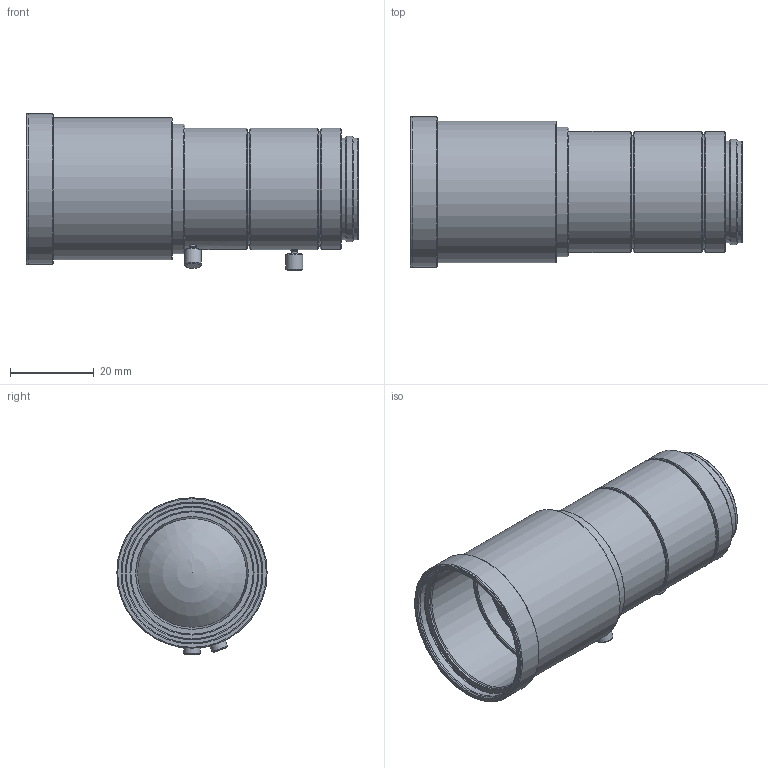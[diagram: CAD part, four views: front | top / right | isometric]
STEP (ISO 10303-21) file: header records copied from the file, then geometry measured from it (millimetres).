
FILE_DESCRIPTION(/* description */ ('Unknown'),/* implementation_level */ '2;1');
FILE_NAME(/* name */ 'M7528-MPW3_HP_251009_',/* time_stamp */ '2025-10-10T13:28:02+09:00',/* author */ ('Unknown'),/* organization */ ('Unknown'),/* preprocessor_version */ 'ST-DEVELOPER v18.102',/* originating_system */ 'Solid Edge',/* authorisation */ 'Unknown');
FILE_SCHEMA (('AUTOMOTIVE_DESIGN {1 0 10303 214 3 1 1}'));
Length unit declared in the file: millimetre
Products named in the file (3): M7528-MPW3_HP_251009_; M7528-MPW3_Infinity_251009_; M7528-MPW3_Mechanical Limit_251009_
Assembly tree (2 placements, depth 2):
  M7528-MPW3_HP_251009_
    M7528-MPW3_Infinity_251009_
    M7528-MPW3_Mechanical Limit_251009_
Bounding box: 79.5 x 36 x 37.44 mm (x, y, z)
Volume: 88967.2 mm3; surface area: 25515.6 mm2
Topology: 2 solids, 2 shells, 153 faces, 275 edges, 166 vertices
Faces by surface type: cone 56, cylinder 47, plane 46, sphere 4
Full cylindrical faces by diameter (mm): 1.3 x4, 1.7 x4, 4 x4, 15.6 x2, 20 x2, 24.4 x4, 25.3 x2, 27 x2, 27.5 x2, 29 x6, 29.3 x2, 31 x2, 31.5 x2, 32 x1, 33.5 x2, 34 x2, 34.5 x2, 36 x2
Entity records: 4206 total; most frequent: DIRECTION 606, CARTESIAN_POINT 498, AXIS2_PLACEMENT_3D 303, ORIENTED_EDGE 302, EDGE_LOOP 302, FACE_BOUND 302, STYLED_ITEM 153, PRESENTATION_STYLE_ASSIGNMENT 153
